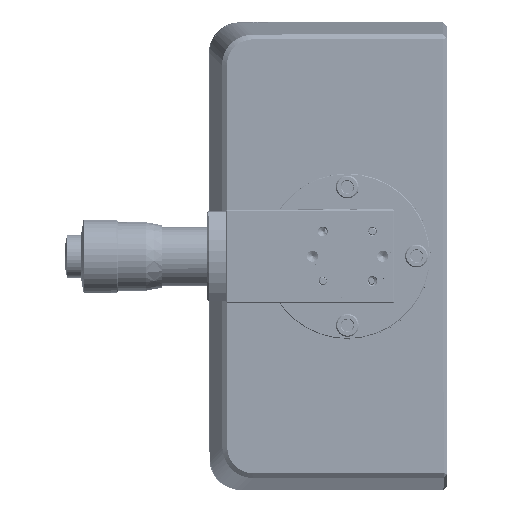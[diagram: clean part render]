
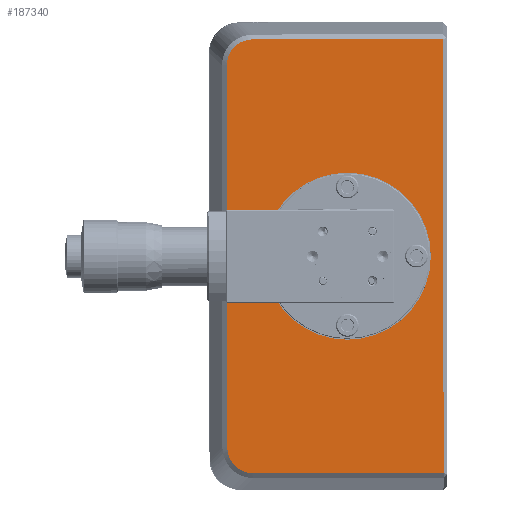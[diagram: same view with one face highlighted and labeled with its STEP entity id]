
A CAD part, left-side view. The second image highlights one B-rep face of the part: STEP entity #187340.
In plain terms, the highlighted planar face has unit normal (-1, -0.002, -0.001).
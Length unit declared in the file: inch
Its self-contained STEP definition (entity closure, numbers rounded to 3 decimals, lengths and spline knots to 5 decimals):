
#1661 = CARTESIAN_POINT ( 'NONE',  ( -0.09531, -6.70138, 0.34217 ) ) ;
#10667 = LINE ( 'NONE', #76581, #64091 ) ;
#17123 = VERTEX_POINT ( 'NONE', #105708 ) ;
#17777 = VERTEX_POINT ( 'NONE', #132849 ) ;
#19706 = VECTOR ( 'NONE', #165556, 39.37008 ) ;
#25637 = VECTOR ( 'NONE', #107294, 39.37008 ) ;
#26673 = CARTESIAN_POINT ( 'NONE',  ( -0.09337, -6.81799, -3.05219 ) ) ;
#29686 = CARTESIAN_POINT ( 'NONE',  ( -0.0935, -6.74424, -3.01599 ) ) ;
#33321 = ORIENTED_EDGE ( 'NONE', *, *, #293798, .T. ) ;
#41068 = ORIENTED_EDGE ( 'NONE', *, *, #183112, .T. ) ;
#42063 = CIRCLE ( 'NONE', #209710, 0.67 ) ;
#45036 = ORIENTED_EDGE ( 'NONE', *, *, #126057, .T. ) ;
#49074 = CARTESIAN_POINT ( 'NONE',  ( -0.0937, -6.66383, -2.87638 ) ) ;
#49993 = LINE ( 'NONE', #185123, #19706 ) ;
#50277 = CARTESIAN_POINT ( 'NONE',  ( -0.09531, -6.65983, 0.21342 ) ) ;
#55651 = DIRECTION ( 'NONE',  ( -0.002, 1., -0.001 ) ) ;
#56342 = VECTOR ( 'NONE', #55651, 39.37008 ) ;
#58326 = EDGE_LOOP ( 'NONE', ( #196973, #45036, #41068, #230926, #228093, #33321 ) ) ;
#64091 = VECTOR ( 'NONE', #121709, 39.37008 ) ;
#70488 = CARTESIAN_POINT ( 'NONE',  ( -0.09531, -6.65983, 0.21342 ) ) ;
#70921 = DIRECTION ( 'NONE',  ( -0.001, 0.001, 1. ) ) ;
#74518 = CARTESIAN_POINT ( 'NONE',  ( -0.09346, -6.7675, -3.03145 ) ) ;
#76456 = AXIS2_PLACEMENT_3D ( 'NONE', #90544, #210490, #70921 ) ;
#76581 = CARTESIAN_POINT ( 'NONE',  ( -0.09451, -6.66181, -1.31774 ) ) ;
#78149 = LINE ( 'NONE', #261091, #56342 ) ;
#81824 = LINE ( 'NONE', #243788, #25637 ) ;
#90544 = CARTESIAN_POINT ( 'NONE',  ( -0.093, -7.62689, -1.31649 ) ) ;
#94721 = CARTESIAN_POINT ( 'NONE',  ( -0.09372, -6.6638, -2.8489 ) ) ;
#97891 = FACE_OUTER_BOUND ( 'NONE', #58326, .T. ) ;
#105708 = CARTESIAN_POINT ( 'NONE',  ( -0.09335, -7.62602, -0.64649 ) ) ;
#107294 = DIRECTION ( 'NONE',  ( -0.001, 0.001, 1. ) ) ;
#117059 = CARTESIAN_POINT ( 'NONE',  ( -0.09527, -6.73984, 0.38072 ) ) ;
#117560 = VERTEX_POINT ( 'NONE', #254050 ) ;
#121709 = DIRECTION ( 'NONE',  ( 0.001, -0.001, -1. ) ) ;
#125990 = ORIENTED_EDGE ( 'NONE', *, *, #264168, .F. ) ;
#126057 = EDGE_CURVE ( 'NONE', #17777, #175777, #49993, .T. ) ;
#132849 = CARTESIAN_POINT ( 'NONE',  ( -0.09328, -6.87299, -3.05755 ) ) ;
#140036 = CARTESIAN_POINT ( 'NONE',  ( -0.09324, -7.47689, -1.31668 ) ) ;
#141509 = DIRECTION ( 'NONE',  ( 0.001, -0.001, -1. ) ) ;
#144123 = CARTESIAN_POINT ( 'NONE',  ( -0.09271, -8.39463, 0.42459 ) ) ;
#145044 = CARTESIAN_POINT ( 'NONE',  ( -0.09089, -8.39914, -3.05557 ) ) ;
#146529 = CARTESIAN_POINT ( 'NONE',  ( -0.093, -7.62689, -1.31649 ) ) ;
#151635 = CARTESIAN_POINT ( 'NONE',  ( -0.09509, -6.86848, 0.42261 ) ) ;
#162124 = CARTESIAN_POINT ( 'NONE',  ( -0.09532, -6.68593, 0.31891 ) ) ;
#163065 = VERTEX_POINT ( 'NONE', #151635 ) ;
#163174 = CARTESIAN_POINT ( 'NONE',  ( -0.09368, -6.6693, -2.90388 ) ) ;
#165106 = VERTEX_POINT ( 'NONE', #94721 ) ;
#165556 = DIRECTION ( 'NONE',  ( 0.002, -1., 0.001 ) ) ;
#166132 = CARTESIAN_POINT ( 'NONE',  ( -0.09328, -6.87299, -3.05755 ) ) ;
#169041 = DIRECTION ( 'NONE',  ( -0.001, 0.001, 1. ) ) ;
#175120 = B_SPLINE_CURVE_WITH_KNOTS ( 'NONE', 3,
 ( #207099, #254890, #235439, #275943, #117059, #1661, #162124, #208568, #278915, #70488 ),
 .UNSPECIFIED., .F., .F.,
 ( 4, 2, 2, 2, 4 ),
 ( 0., 0.25, 0.5, 0.75, 1. ),
 .UNSPECIFIED. ) ;
#175777 = VERTEX_POINT ( 'NONE', #145044 ) ;
#183112 = EDGE_CURVE ( 'NONE', #175777, #273658, #81824, .T. ) ;
#185123 = CARTESIAN_POINT ( 'NONE',  ( -0.09233, -7.47915, -3.05676 ) ) ;
#185359 = EDGE_LOOP ( 'NONE', ( #125990, #241485 ) ) ;
#187340 = ADVANCED_FACE ( 'NONE', ( #97891, #274880 ), #279315, .F. ) ;
#188622 = CARTESIAN_POINT ( 'NONE',  ( -0.09358, -6.70569, -2.97754 ) ) ;
#189491 = DIRECTION ( 'NONE',  ( 1., 0.002, 0.001 ) ) ;
#195050 = AXIS2_PLACEMENT_3D ( 'NONE', #140036, #189491, #141509 ) ;
#196973 = ORIENTED_EDGE ( 'NONE', *, *, #200721, .T. ) ;
#200721 = EDGE_CURVE ( 'NONE', #165106, #17777, #251223, .T. ) ;
#205831 = CIRCLE ( 'NONE', #76456, 0.67 ) ;
#207099 = CARTESIAN_POINT ( 'NONE',  ( -0.09509, -6.86848, 0.42261 ) ) ;
#208568 = CARTESIAN_POINT ( 'NONE',  ( -0.09533, -6.66519, 0.26841 ) ) ;
#209710 = AXIS2_PLACEMENT_3D ( 'NONE', #146529, #261810, #169041 ) ;
#210490 = DIRECTION ( 'NONE',  ( -1., -0.002, -0.001 ) ) ;
#228093 = ORIENTED_EDGE ( 'NONE', *, *, #288499, .T. ) ;
#230926 = ORIENTED_EDGE ( 'NONE', *, *, #275117, .T. ) ;
#232043 = VERTEX_POINT ( 'NONE', #50277 ) ;
#235439 = CARTESIAN_POINT ( 'NONE',  ( -0.09518, -6.8135, 0.4171 ) ) ;
#241485 = ORIENTED_EDGE ( 'NONE', *, *, #266736, .F. ) ;
#243788 = CARTESIAN_POINT ( 'NONE',  ( -0.0918, -8.39689, -1.31549 ) ) ;
#251223 = B_SPLINE_CURVE_WITH_KNOTS ( 'NONE', 3,
 ( #279947, #49074, #163174, #257434, #188622, #29686, #74518, #26673, #260413, #166132 ),
 .UNSPECIFIED., .F., .F.,
 ( 4, 2, 2, 2, 4 ),
 ( 0., 0.25, 0.5, 0.75, 1. ),
 .UNSPECIFIED. ) ;
#254050 = CARTESIAN_POINT ( 'NONE',  ( -0.09266, -7.62776, -1.98649 ) ) ;
#254890 = CARTESIAN_POINT ( 'NONE',  ( -0.09514, -6.84099, 0.42257 ) ) ;
#257434 = CARTESIAN_POINT ( 'NONE',  ( -0.09362, -6.69017, -2.95432 ) ) ;
#260413 = CARTESIAN_POINT ( 'NONE',  ( -0.09332, -6.84545, -3.05758 ) ) ;
#261091 = CARTESIAN_POINT ( 'NONE',  ( -0.09414, -7.47463, 0.42339 ) ) ;
#261810 = DIRECTION ( 'NONE',  ( -1., -0.002, -0.001 ) ) ;
#264168 = EDGE_CURVE ( 'NONE', #17123, #117560, #205831, .T. ) ;
#266736 = EDGE_CURVE ( 'NONE', #117560, #17123, #42063, .T. ) ;
#273658 = VERTEX_POINT ( 'NONE', #144123 ) ;
#274880 = FACE_BOUND ( 'NONE', #185359, .T. ) ;
#275117 = EDGE_CURVE ( 'NONE', #273658, #163065, #78149, .T. ) ;
#275943 = CARTESIAN_POINT ( 'NONE',  ( -0.09524, -6.76305, 0.39624 ) ) ;
#278915 = CARTESIAN_POINT ( 'NONE',  ( -0.09532, -6.65979, 0.24096 ) ) ;
#279315 = PLANE ( 'NONE',  #195050 ) ;
#279947 = CARTESIAN_POINT ( 'NONE',  ( -0.09372, -6.6638, -2.8489 ) ) ;
#288499 = EDGE_CURVE ( 'NONE', #163065, #232043, #175120, .T. ) ;
#293798 = EDGE_CURVE ( 'NONE', #232043, #165106, #10667, .T. ) ;
